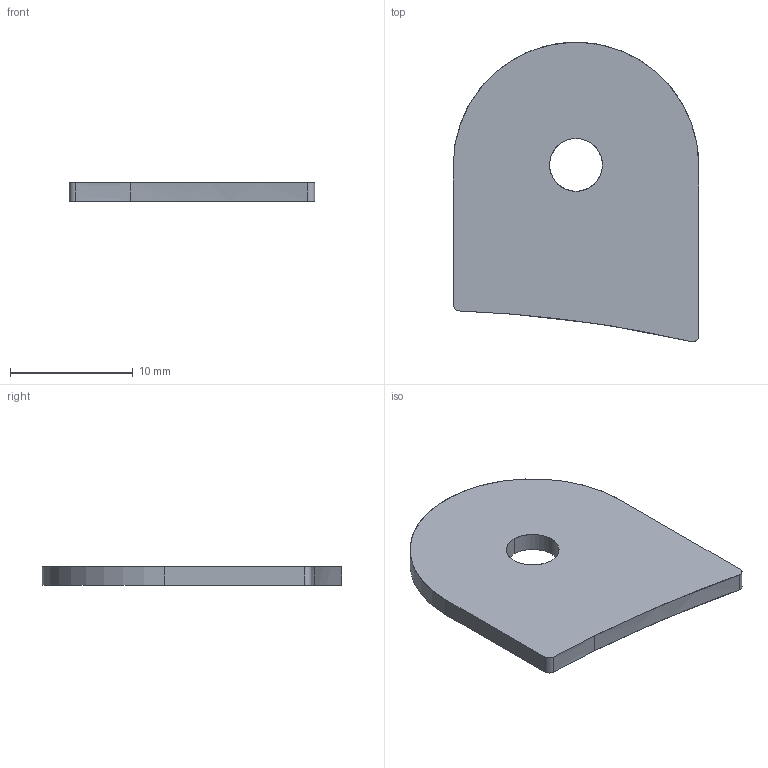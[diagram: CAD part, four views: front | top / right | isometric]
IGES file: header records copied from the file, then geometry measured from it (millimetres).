
Start section: START RECORD GO HERE.
Global section: file name: 20M_BA_5.igs; native system: IBM CATIA IGES - CATIA Version 5 Release 19 ; preprocessor: CATIA Version 5 Release 19 ; author: alexb; organization: LAPTOP-PR6NE7IP; date: 20191218.151958; units: millimetre
Bounding box: 20 x 24.41 x 1.5 mm (x, y, z)
Surface area: 936.2 mm2 (no closed solid volume)
Topology: 0 solids, 0 shells, 13 faces, 66 edges, 66 vertices
Faces by surface type: revolution 7, plane 4, extrusion 2
